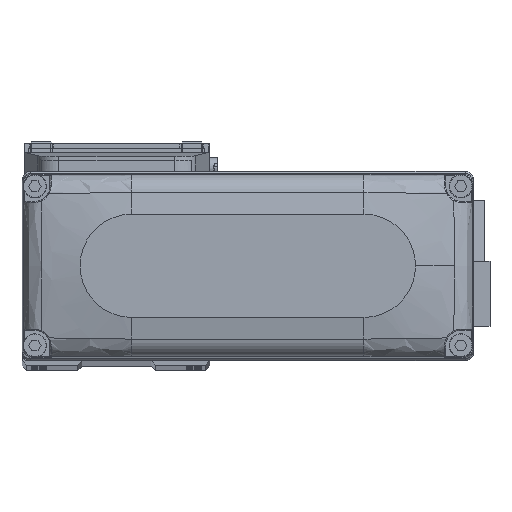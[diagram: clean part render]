
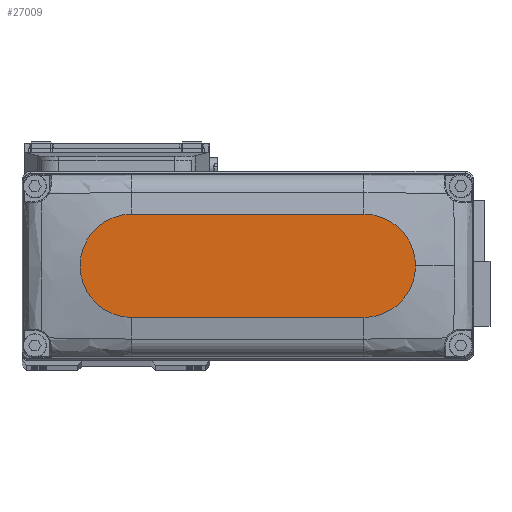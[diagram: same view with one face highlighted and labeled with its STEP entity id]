
A CAD part, top view. The second image highlights one B-rep face of the part: STEP entity #27009.
In plain terms, the highlighted planar face has unit normal (0, 0, 1).
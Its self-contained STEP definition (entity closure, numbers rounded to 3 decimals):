
#2378 = DIRECTION ( 'NONE',  ( 0., 0., 1. ) ) ;
#3420 = ORIENTED_EDGE ( 'NONE', *, *, #11920, .T. ) ;
#4250 = CARTESIAN_POINT ( 'NONE',  ( 27., 0., 25. ) ) ;
#4317 = AXIS2_PLACEMENT_3D ( 'NONE', #4250, #16425, #28619 ) ;
#6213 = EDGE_CURVE ( 'NONE', #20742, #27588, #37437, .T. ) ;
#6604 = CARTESIAN_POINT ( 'NONE',  ( 39., 0., 25. ) ) ;
#7635 = CARTESIAN_POINT ( 'NONE',  ( 27., -12., 25. ) ) ;
#8758 = CARTESIAN_POINT ( 'NONE',  ( 27., 0., 25. ) ) ;
#8904 = CIRCLE ( 'NONE', #31232, 12. ) ;
#9451 = DIRECTION ( 'NONE',  ( 0., 0., 1. ) ) ;
#9971 = CIRCLE ( 'NONE', #32278, 12. ) ;
#10064 = CARTESIAN_POINT ( 'NONE',  ( -27., 12., 25. ) ) ;
#10562 = DIRECTION ( 'NONE',  ( 1., 0., 0. ) ) ;
#10592 = CARTESIAN_POINT ( 'NONE',  ( -27., 12., 25. ) ) ;
#11920 = EDGE_CURVE ( 'NONE', #34624, #13557, #9971, .T. ) ;
#12441 = FACE_OUTER_BOUND ( 'NONE', #35990, .T. ) ;
#13229 = ORIENTED_EDGE ( 'NONE', *, *, #22562, .T. ) ;
#13557 = VERTEX_POINT ( 'NONE', #6604 ) ;
#14573 = DIRECTION ( 'NONE',  ( 1., 0., 0. ) ) ;
#16425 = DIRECTION ( 'NONE',  ( 0., 0., 1. ) ) ;
#18386 = AXIS2_PLACEMENT_3D ( 'NONE', #36823, #9451, #21624 ) ;
#20742 = VERTEX_POINT ( 'NONE', #37394 ) ;
#20924 = DIRECTION ( 'NONE',  ( 0., 0., 1. ) ) ;
#21521 = CIRCLE ( 'NONE', #4317, 12. ) ;
#21624 = DIRECTION ( 'NONE',  ( 1., 0., 0. ) ) ;
#21820 = ORIENTED_EDGE ( 'NONE', *, *, #35089, .T. ) ;
#22234 = DIRECTION ( 'NONE',  ( -1., 0., 0. ) ) ;
#22562 = EDGE_CURVE ( 'NONE', #32888, #34624, #25744, .T. ) ;
#24314 = VECTOR ( 'NONE', #10562, 1000. ) ;
#24613 = PLANE ( 'NONE',  #18386 ) ;
#25744 = LINE ( 'NONE', #37942, #24314 ) ;
#27009 = ADVANCED_FACE ( 'NONE', ( #12441 ), #24613, .T. ) ;
#27588 = VERTEX_POINT ( 'NONE', #10592 ) ;
#28619 = DIRECTION ( 'NONE',  ( 1., 0., 0. ) ) ;
#29646 = CARTESIAN_POINT ( 'NONE',  ( -27., -12., 25. ) ) ;
#29751 = CARTESIAN_POINT ( 'NONE',  ( -27., 0., 25. ) ) ;
#31055 = ORIENTED_EDGE ( 'NONE', *, *, #6213, .T. ) ;
#31232 = AXIS2_PLACEMENT_3D ( 'NONE', #29751, #2378, #14573 ) ;
#32278 = AXIS2_PLACEMENT_3D ( 'NONE', #8758, #20924, #33132 ) ;
#32888 = VERTEX_POINT ( 'NONE', #29646 ) ;
#33132 = DIRECTION ( 'NONE',  ( 1., 0., 0. ) ) ;
#34624 = VERTEX_POINT ( 'NONE', #7635 ) ;
#35089 = EDGE_CURVE ( 'NONE', #27588, #32888, #8904, .T. ) ;
#35990 = EDGE_LOOP ( 'NONE', ( #31055, #21820, #13229, #3420, #38234 ) ) ;
#36420 = VECTOR ( 'NONE', #22234, 1000. ) ;
#36823 = CARTESIAN_POINT ( 'NONE',  ( 0., 0., 25. ) ) ;
#37394 = CARTESIAN_POINT ( 'NONE',  ( 27., 12., 25. ) ) ;
#37437 = LINE ( 'NONE', #10064, #36420 ) ;
#37942 = CARTESIAN_POINT ( 'NONE',  ( -27., -12., 25. ) ) ;
#38060 = EDGE_CURVE ( 'NONE', #13557, #20742, #21521, .T. ) ;
#38234 = ORIENTED_EDGE ( 'NONE', *, *, #38060, .T. ) ;
